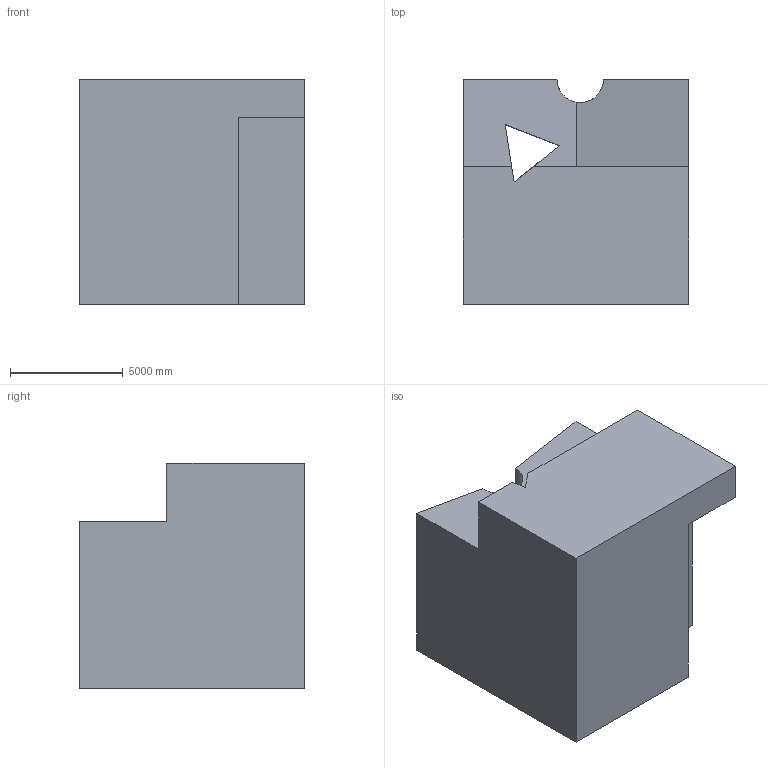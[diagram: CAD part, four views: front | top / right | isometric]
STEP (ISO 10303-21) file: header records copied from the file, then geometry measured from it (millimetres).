
FILE_DESCRIPTION (( 'STEP AP203' ), '1' );
FILE_NAME ('1482.STEP', '2022-08-18T14:44:36', ( 'user' ), ( '' ), 'SwSTEP 2.0', 'SolidWorks 2021', '' );
FILE_SCHEMA (( 'CONFIG_CONTROL_DESIGN' ));
Length unit declared in the file: centimetre
Products named in the file (1): 1482
Bounding box: 10000 x 10000 x 10000 mm (x, y, z)
Volume: 769027109768 mm3; surface area: 674847856.5 mm2
Topology: 1 solids, 1 shells, 24 faces, 75 edges, 50 vertices
Faces by surface type: plane 23, cylinder 1
Entity records: 907 total; most frequent: CARTESIAN_POINT 156, ORIENTED_EDGE 150, DIRECTION 126, EDGE_CURVE 75, VECTOR 70, LINE 70, VERTEX_POINT 50, AXIS2_PLACEMENT_3D 28
